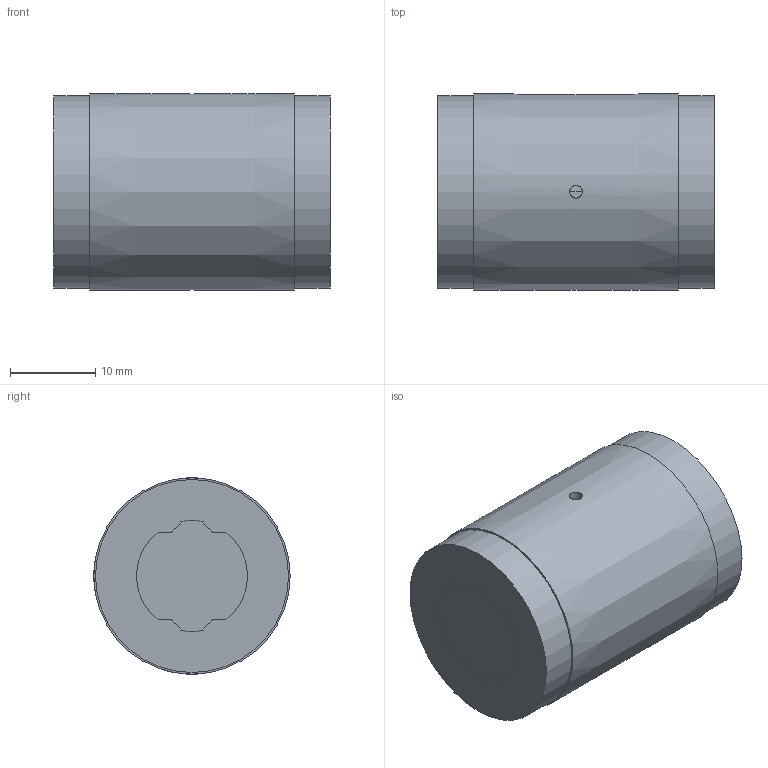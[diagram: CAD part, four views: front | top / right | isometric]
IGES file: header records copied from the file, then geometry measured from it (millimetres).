
Start section: Data from Parasolid IGES Translator 26.0.171, Copyright(c) 2006 Siemens PLM Software. All Rights Reserved.
Global section: file name: LT13X+32.4L(00).igs; native system: By Siemens PLM Incorporated; preprocessor: XPlus GENERIC/IGES 26.0.171; author: Noname; organization: Noname; date: 20240528.070755; units: millimetre
Bounding box: 32.4 x 23 x 23 mm (x, y, z)
Surface area: 5983.1 mm2 (no closed solid volume)
Topology: 0 solids, 0 shells, 66 faces, 362 edges, 356 vertices
Faces by surface type: revolution 41, extrusion 25
